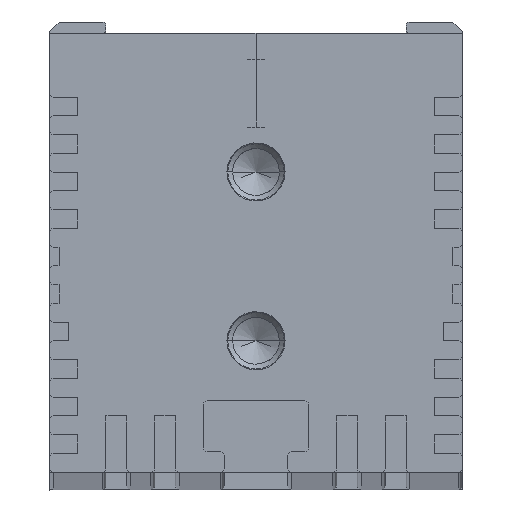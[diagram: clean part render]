
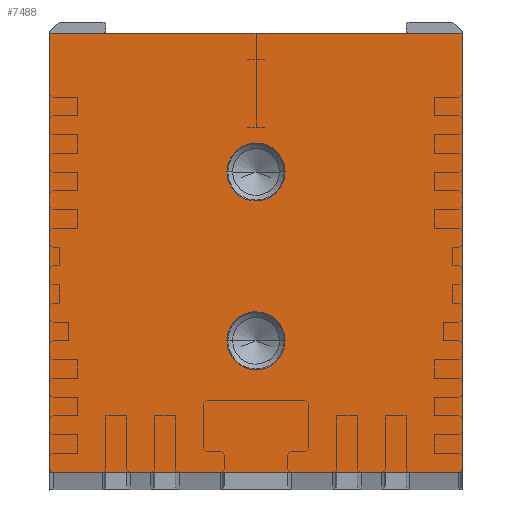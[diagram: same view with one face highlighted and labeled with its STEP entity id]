
A CAD part, top view. The second image highlights one B-rep face of the part: STEP entity #7488.
In plain terms, the highlighted planar face has unit normal (0, 0, 1).
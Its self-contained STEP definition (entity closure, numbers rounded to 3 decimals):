
#2570=DIRECTION('',(-1.,0.,0.));
#2571=VECTOR('',#2570,22.);
#2572=CARTESIAN_POINT('',(11.,11.402,268.5));
#2573=LINE('',#2572,#2571);
#2574=DIRECTION('',(0.,1.,0.));
#2575=VECTOR('',#2574,23.402);
#2576=CARTESIAN_POINT('',(11.,-11.999,268.5));
#2577=LINE('',#2576,#2575);
#2578=DIRECTION('',(1.,0.,0.));
#2579=VECTOR('',#2578,22.);
#2580=CARTESIAN_POINT('',(-11.,-12.007,268.5));
#2581=LINE('',#2580,#2579);
#2582=DIRECTION('',(0.,-1.,0.));
#2583=VECTOR('',#2582,23.409);
#2584=CARTESIAN_POINT('',(-11.,11.402,268.5));
#2585=LINE('',#2584,#2583);
#2586=CARTESIAN_POINT('',(-1.55,-4.996,
268.5));
#2587=CARTESIAN_POINT('',(-1.55,-4.775,
268.5));
#2588=CARTESIAN_POINT('',(-1.465,-4.372,
268.5));
#2589=CARTESIAN_POINT('',(-1.094,-3.839,
268.5));
#2590=CARTESIAN_POINT('',(-0.584,-3.521,
268.5));
#2591=CARTESIAN_POINT('',(-0.008,-3.41,
268.5));
#2592=CARTESIAN_POINT('',(0.577,-3.515,
268.5));
#2593=CARTESIAN_POINT('',(1.108,-3.85,268.5));
#2594=CARTESIAN_POINT('',(1.471,-4.392,268.5));
#2595=CARTESIAN_POINT('',(1.55,-4.784,268.5));
#2596=CARTESIAN_POINT('',(1.55,-4.996,268.5));
#2598=CARTESIAN_POINT('',(1.55,-4.996,268.5));
#2599=CARTESIAN_POINT('',(1.55,-5.217,268.5));
#2600=CARTESIAN_POINT('',(1.465,-5.619,268.5));
#2601=CARTESIAN_POINT('',(1.094,-6.152,268.5));
#2602=CARTESIAN_POINT('',(0.584,-6.47,
268.5));
#2603=CARTESIAN_POINT('',(0.008,-6.582,
268.5));
#2604=CARTESIAN_POINT('',(-0.577,-6.476,
268.5));
#2605=CARTESIAN_POINT('',(-1.108,-6.141,
268.5));
#2606=CARTESIAN_POINT('',(-1.471,-5.599,
268.5));
#2607=CARTESIAN_POINT('',(-1.55,-5.208,
268.5));
#2608=CARTESIAN_POINT('',(-1.55,-4.996,
268.5));
#2610=CARTESIAN_POINT('',(-1.55,4.004,268.5));
#2611=CARTESIAN_POINT('',(-1.55,4.225,268.5));
#2612=CARTESIAN_POINT('',(-1.465,4.628,268.5));
#2613=CARTESIAN_POINT('',(-1.094,5.161,268.5));
#2614=CARTESIAN_POINT('',(-0.584,5.479,
268.5));
#2615=CARTESIAN_POINT('',(-0.008,5.59,
268.5));
#2616=CARTESIAN_POINT('',(0.577,5.485,268.5));
#2617=CARTESIAN_POINT('',(1.108,5.15,268.5));
#2618=CARTESIAN_POINT('',(1.471,4.608,268.5));
#2619=CARTESIAN_POINT('',(1.55,4.216,268.5));
#2620=CARTESIAN_POINT('',(1.55,4.004,268.5));
#2622=CARTESIAN_POINT('',(1.55,4.004,268.5));
#2623=CARTESIAN_POINT('',(1.55,3.783,268.5));
#2624=CARTESIAN_POINT('',(1.465,3.381,268.5));
#2625=CARTESIAN_POINT('',(1.094,2.848,268.5));
#2626=CARTESIAN_POINT('',(0.584,2.53,268.5));
#2627=CARTESIAN_POINT('',(0.008,2.418,268.5));
#2628=CARTESIAN_POINT('',(-0.577,2.524,
268.5));
#2629=CARTESIAN_POINT('',(-1.108,2.859,268.5));
#2630=CARTESIAN_POINT('',(-1.471,3.401,268.5));
#2631=CARTESIAN_POINT('',(-1.55,3.792,268.5));
#2632=CARTESIAN_POINT('',(-1.55,4.004,268.5));
#3014=CARTESIAN_POINT('',(-11.,11.402,268.5));
#3015=CARTESIAN_POINT('',(-11.,-12.007,268.5));
#3016=VERTEX_POINT('',#3014);
#3017=VERTEX_POINT('',#3015);
#3018=CARTESIAN_POINT('',(11.,-11.999,268.5));
#3019=VERTEX_POINT('',#3018);
#3020=CARTESIAN_POINT('',(11.,11.402,268.5));
#3021=VERTEX_POINT('',#3020);
#3830=VERTEX_POINT('',#2586);
#3831=VERTEX_POINT('',#2596);
#3834=VERTEX_POINT('',#2610);
#3835=VERTEX_POINT('',#2620);
#7465=CARTESIAN_POINT('',(0.,0.,268.5));
#7466=DIRECTION('',(0.,0.,1.));
#7467=DIRECTION('',(1.,0.,0.));
#7468=AXIS2_PLACEMENT_3D('',#7465,#7466,#7467);
#7469=PLANE('',#7468);
#7470=ORIENTED_EDGE('',*,*,#3903,.F.);
#7471=ORIENTED_EDGE('',*,*,#3998,.F.);
#7472=ORIENTED_EDGE('',*,*,#4895,.F.);
#7473=ORIENTED_EDGE('',*,*,#4151,.F.);
#7474=EDGE_LOOP('',(#7470,#7471,#7472,#7473));
#7475=FACE_OUTER_BOUND('',#7474,.F.);
#7477=ORIENTED_EDGE('',*,*,#7476,.F.);
#7479=ORIENTED_EDGE('',*,*,#7478,.F.);
#7480=EDGE_LOOP('',(#7477,#7479));
#7481=FACE_BOUND('',#7480,.F.);
#7483=ORIENTED_EDGE('',*,*,#7482,.F.);
#7485=ORIENTED_EDGE('',*,*,#7484,.F.);
#7486=EDGE_LOOP('',(#7483,#7485));
#7487=FACE_BOUND('',#7486,.F.);
#2597=B_SPLINE_CURVE_WITH_KNOTS('',3,(#2586,#2587,#2588,#2589,#2590,#2591,#2592,
#2593,#2594,#2595,#2596),.UNSPECIFIED.,.F.,.F.,(4,1,1,1,1,1,1,1,4),(0.,
0.125,0.25,0.375,0.5,0.625,0.75,0.875,1.),.UNSPECIFIED.);
#2609=B_SPLINE_CURVE_WITH_KNOTS('',3,(#2598,#2599,#2600,#2601,#2602,#2603,#2604,
#2605,#2606,#2607,#2608),.UNSPECIFIED.,.F.,.F.,(4,1,1,1,1,1,1,1,4),(0.,
0.125,0.25,0.375,0.5,0.625,0.75,0.875,1.),.UNSPECIFIED.);
#2621=B_SPLINE_CURVE_WITH_KNOTS('',3,(#2610,#2611,#2612,#2613,#2614,#2615,#2616,
#2617,#2618,#2619,#2620),.UNSPECIFIED.,.F.,.F.,(4,1,1,1,1,1,1,1,4),(0.,
0.125,0.25,0.375,0.5,0.625,0.75,0.875,1.),.UNSPECIFIED.);
#2633=B_SPLINE_CURVE_WITH_KNOTS('',3,(#2622,#2623,#2624,#2625,#2626,#2627,#2628,
#2629,#2630,#2631,#2632),.UNSPECIFIED.,.F.,.F.,(4,1,1,1,1,1,1,1,4),(0.,
0.125,0.25,0.375,0.5,0.625,0.75,0.875,1.),.UNSPECIFIED.);
#3903=EDGE_CURVE('',#3021,#3016,#2573,.T.);
#3998=EDGE_CURVE('',#3019,#3021,#2577,.T.);
#4151=EDGE_CURVE('',#3016,#3017,#2585,.T.);
#4895=EDGE_CURVE('',#3017,#3019,#2581,.T.);
#7476=EDGE_CURVE('',#3830,#3831,#2597,.T.);
#7478=EDGE_CURVE('',#3831,#3830,#2609,.T.);
#7482=EDGE_CURVE('',#3834,#3835,#2621,.T.);
#7484=EDGE_CURVE('',#3835,#3834,#2633,.T.);
#7488=ADVANCED_FACE('',(#7475,#7481,#7487),#7469,.T.);
